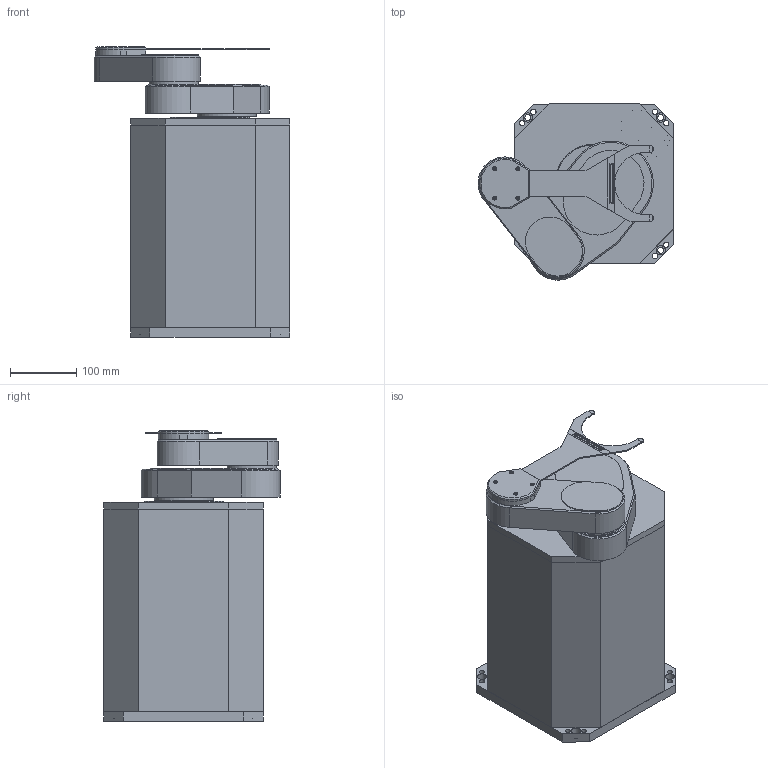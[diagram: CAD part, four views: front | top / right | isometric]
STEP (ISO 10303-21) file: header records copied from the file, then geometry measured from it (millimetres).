
FILE_DESCRIPTION(/* description */ (''),/* implementation_level */ '2;1');
FILE_NAME(/* name */ 'C:\Users\h-mitaka\Desktop\新しいフォルダー\3D-04755A\SCR3130CS-200-PM-04755A.stp',/* time_stamp */ '2018-04-03T16:53:23+09:00',/* author */ ('h-mitaka'),/* organization */ (''),/* preprocessor_version */ 'ST-DEVELOPER v16.13',/* originating_system */ 'Autodesk Inventor 2018',/* authorisation */ '');
FILE_SCHEMA (('AUTOMOTIVE_DESIGN { 1 0 10303 214 3 1 1 }'));
Length unit declared in the file: millimetre
Products named in the file (8): SCR3130CS-200-PM-04755A; BODY-SB300; PIPE-SCS200; ARM1-SC130; ARM2-SC130; WRIST-BLOCK; END-EFFECTOR; WRIST-BLOCK_1
Assembly tree (7 placements, depth 2):
  SCR3130CS-200-PM-04755A
    BODY-SB300
    PIPE-SCS200
    ARM1-SC130
    ARM2-SC130
    WRIST-BLOCK
    END-EFFECTOR
    WRIST-BLOCK_1
Bounding box: 294.98 x 265.38 x 438.2 mm (x, y, z)
Volume: 19060752.3 mm3; surface area: 739901.8 mm2
Topology: 7 solids, 7 shells, 260 faces, 646 edges, 427 vertices
Faces by surface type: plane 167, cylinder 81, cone 12
Full cylindrical faces by diameter (mm): 3 x4, 3.6 x4, 4 x1, 6 x4, 8 x8, 9 x4, 10 x2, 14 x4, 50 x2, 51 x1, 59 x1, 65 x1, 74 x1, 89 x1, 119 x2
Entity records: 7718 total; most frequent: DIRECTION 1315, CARTESIAN_POINT 1268, ORIENTED_EDGE 1166, EDGE_CURVE 583, AXIS2_PLACEMENT_3D 457, VERTEX_POINT 410, LINE 401, VECTOR 401
